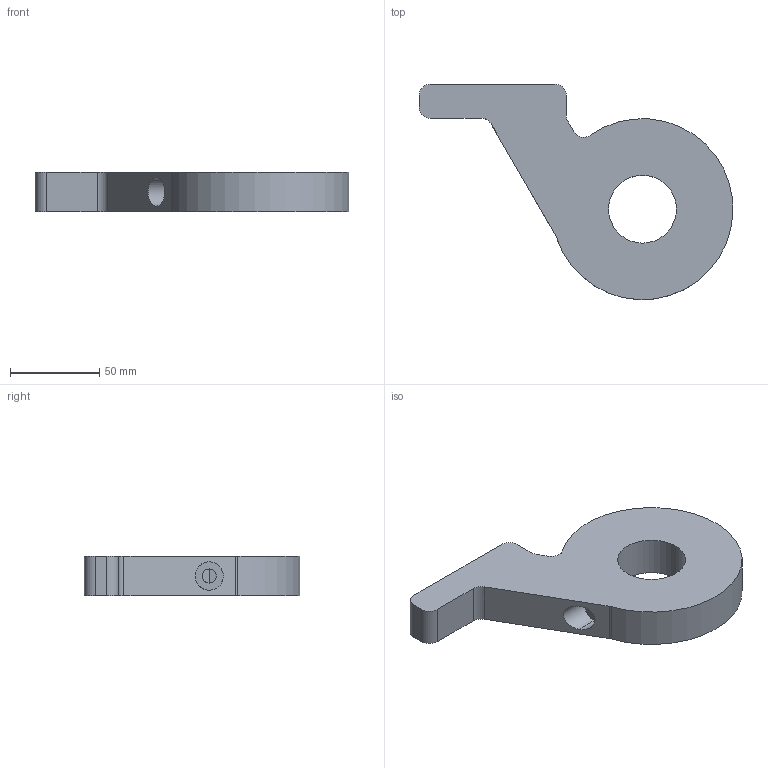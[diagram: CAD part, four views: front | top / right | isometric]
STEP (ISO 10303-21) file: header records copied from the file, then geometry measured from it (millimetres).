
FILE_DESCRIPTION (( 'STEP AP203' ), '1' );
FILE_NAME ('ARM1 rev1.STEP', '2026-03-12T23:43:03', ( '' ), ( '' ), 'SwSTEP 2.0', 'SolidWorks 2025', '' );
FILE_SCHEMA (( 'CONFIG_CONTROL_DESIGN' ));
Length unit declared in the file: inch
Products named in the file (1): ARM1 rev1
Bounding box: 176.06 x 120.82 x 22.23 mm (x, y, z)
Volume: 216083.3 mm3; surface area: 36078.7 mm2
Topology: 1 solids, 1 shells, 32 faces, 79 edges, 52 vertices
Faces by surface type: cylinder 20, plane 12
Entity records: 1112 total; most frequent: CARTESIAN_POINT 236, DIRECTION 177, ORIENTED_EDGE 158, EDGE_CURVE 79, AXIS2_PLACEMENT_3D 69, VERTEX_POINT 52, VECTOR 39, LINE 39
